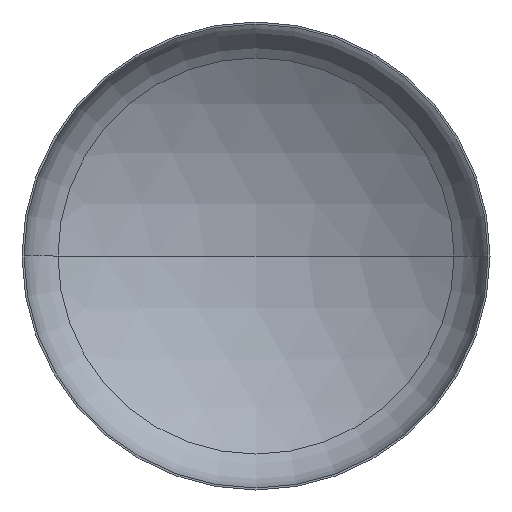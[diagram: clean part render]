
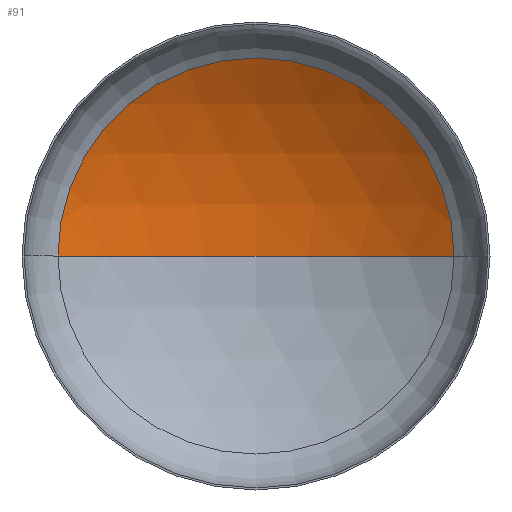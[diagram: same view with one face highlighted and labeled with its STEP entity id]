
A CAD part, front view. The second image highlights one B-rep face of the part: STEP entity #91.
In plain terms, the highlighted spherical face has radius 5200 mm.
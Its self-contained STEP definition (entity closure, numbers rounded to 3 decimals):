
#3 = DIRECTION ( 'NONE',  ( 1., 0., 0. ) ) ;
#19 = SPHERICAL_SURFACE ( 'NONE', #159, 5200. ) ;
#38 = CARTESIAN_POINT ( 'NONE',  ( 0., -3479.087, 0. ) ) ;
#82 = VERTEX_POINT ( 'NONE', #252 ) ;
#91 = ADVANCED_FACE ( 'NONE', ( #270 ), #19, .F. ) ;
#98 = AXIS2_PLACEMENT_3D ( 'NONE', #243, #273, #3 ) ;
#104 = AXIS2_PLACEMENT_3D ( 'NONE', #154, #318, #109 ) ;
#107 = CIRCLE ( 'NONE', #98, 5200. ) ;
#109 = DIRECTION ( 'NONE',  ( -1., 0., 0. ) ) ;
#111 = AXIS2_PLACEMENT_3D ( 'NONE', #188, #178, #180 ) ;
#154 = CARTESIAN_POINT ( 'NONE',  ( 0., -3479.087, 0. ) ) ;
#159 = AXIS2_PLACEMENT_3D ( 'NONE', #38, #242, #236 ) ;
#163 = ORIENTED_EDGE ( 'NONE', *, *, #210, .T. ) ;
#178 = DIRECTION ( 'NONE',  ( 0., -1., 0. ) ) ;
#180 = DIRECTION ( 'NONE',  ( 1., 0., 0. ) ) ;
#185 = ORIENTED_EDGE ( 'NONE', *, *, #215, .T. ) ;
#188 = CARTESIAN_POINT ( 'NONE',  ( 0., 933.592, 0. ) ) ;
#192 = VERTEX_POINT ( 'NONE', #350 ) ;
#196 = VERTEX_POINT ( 'NONE', #342 ) ;
#210 = EDGE_CURVE ( 'NONE', #82, #196, #408, .T. ) ;
#213 = EDGE_LOOP ( 'NONE', ( #261, #185, #163 ) ) ;
#215 = EDGE_CURVE ( 'NONE', #192, #82, #353, .T. ) ;
#216 = EDGE_CURVE ( 'NONE', #192, #196, #107, .T. ) ;
#236 = DIRECTION ( 'NONE',  ( -1., 0., 0. ) ) ;
#242 = DIRECTION ( 'NONE',  ( 0., 0., -1. ) ) ;
#243 = CARTESIAN_POINT ( 'NONE',  ( 0., -3479.087, 0. ) ) ;
#252 = CARTESIAN_POINT ( 'NONE',  ( 2751.048, 933.592, 0. ) ) ;
#261 = ORIENTED_EDGE ( 'NONE', *, *, #216, .F. ) ;
#270 = FACE_OUTER_BOUND ( 'NONE', #213, .T. ) ;
#273 = DIRECTION ( 'NONE',  ( 0., 0., 1. ) ) ;
#318 = DIRECTION ( 'NONE',  ( 0., 0., -1. ) ) ;
#342 = CARTESIAN_POINT ( 'NONE',  ( -2751.048, 933.592, 0. ) ) ;
#350 = CARTESIAN_POINT ( 'NONE',  ( 0., 1720.913, 0. ) ) ;
#353 = CIRCLE ( 'NONE', #104, 5200. ) ;
#408 = CIRCLE ( 'NONE', #111, 2751.048 ) ;
